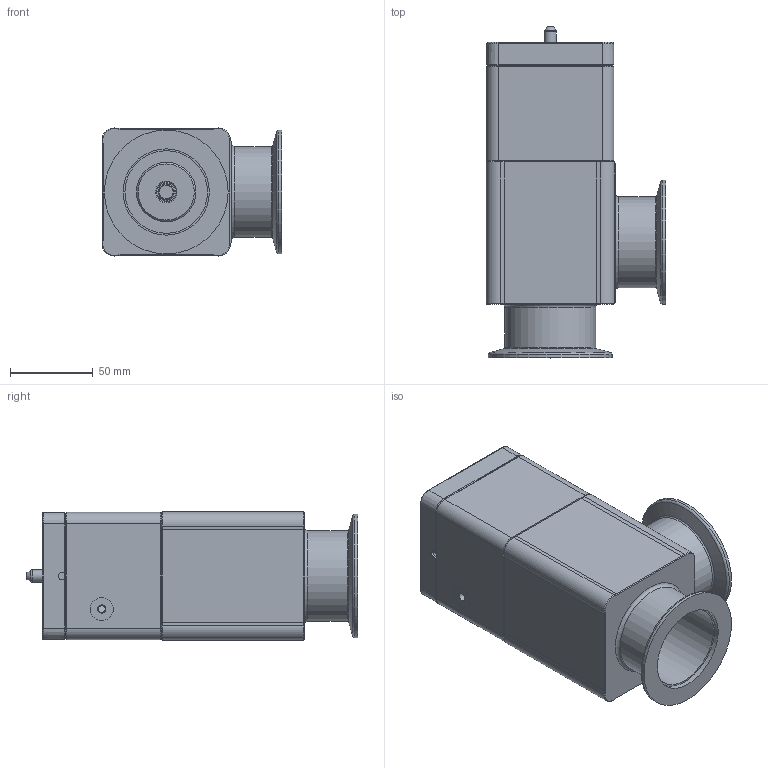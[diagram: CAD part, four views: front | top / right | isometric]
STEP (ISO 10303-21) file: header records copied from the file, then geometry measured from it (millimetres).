
FILE_DESCRIPTION(/* description */ (''),/* implementation_level */ '2;1');
FILE_NAME(/* name */ '1490629248_203.stp',/* time_stamp */ '2013-08-26T13:06:21+02:00',/* author */ (''),/* organization */ (''),/* preprocessor_version */ 'ST-DEVELOPER v11',/* originating_system */ 'SIEMENS PLM Software NX 7.5',/* authorisation */ '');
FILE_SCHEMA (('AP203_CONFIGURATION_CONTROLLED_3D_DESIGN_OF_MECHANICAL_PARTS_AND_ASSEMBLIES_MIM_LF'));
Length unit declared in the file: millimetre
Products named in the file (7): 245144.3; 245150; 236204_1.1; 258606.1; 256526.3; 224820.2; 702522
Assembly tree (10 placements, depth 2):
  702522
    224820.2  x4
    256526.3
    258606.1
    236204_1.1  x2
    245150
    245144.3
Bounding box: 108.8 x 200.99 x 77.6 mm (x, y, z)
Volume: 514588.7 mm3; surface area: 171586.6 mm2
Topology: 18 solids, 18 shells, 578 faces, 1397 edges, 893 vertices
Faces by surface type: plane 335, cone 116, cylinder 94, bspline 21, torus 12
Full cylindrical faces by diameter (mm): 2.5 x2, 2.95 x1, 3 x4, 4.2 x1, 4.6 x1, 4.7 x2, 4.96 x4, 5 x9, 5.6 x2, 6 x8, 6.6 x4, 7.4 x1, 8 x2, 8.175 x1, 9.1 x1, 10 x5, 11.975 x3, 12.015 x2, 13.85 x1, 14 x1, 16.555 x1, 36 x1, 50 x2, 52.2 x2, 55 x2, 63 x1, 63.05 x1, 70.45 x1, 72.85 x1, 74.92 x2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
Entity records: 16025 total; most frequent: CARTESIAN_POINT 3467, DIRECTION 2297, ORIENTED_EDGE 2208, EDGE_CURVE 1104, AXIS2_PLACEMENT_3D 820, VERTEX_POINT 776, EDGE_LOOP 686, LINE 657
